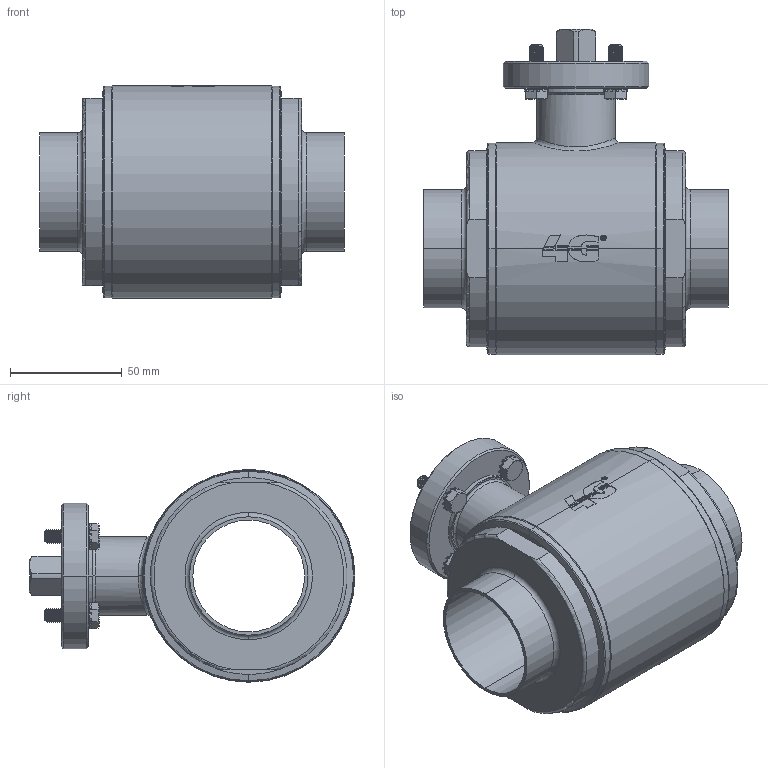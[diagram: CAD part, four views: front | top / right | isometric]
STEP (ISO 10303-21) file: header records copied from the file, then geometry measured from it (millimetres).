
FILE_DESCRIPTION((''),'2;1');
FILE_NAME('PARTE_VUOTA','2021-05-11T14:51:23',('alfio.taboni'),('CDM Tecnoconsulting'),'CREO PARAMETRIC BY PTC INC, 2020053','CREO PARAMETRIC BY PTC INC, 2020053','');
FILE_SCHEMA(('CONFIG_CONTROL_DESIGN','SHAPE_APPEARANCE_LAYERS_GROUPS'));
Products named in the file (1): PARTE_VUOTA
Bounding box: 136 x 145.75 x 95 mm (x, y, z)
Volume: 541397.6 mm3; surface area: 132906.6 mm2
Topology: 1 solids, 11 shells, 1276 faces, 3591 edges, 2275 vertices
Faces by surface type: plane 449, cylinder 418, cone 150, bspline 119, torus 70, extrusion 56, sphere 14
Entity records: 84138 total; most frequent: CARTESIAN_POINT 42694, ORIENTED_EDGE 7174, DIRECTION 5319, PRESENTATION_STYLE_ASSIGNMENT 3588, STYLED_ITEM 3588, CURVE_STYLE 3587, EDGE_CURVE 3587, VERTEX_POINT 2275
